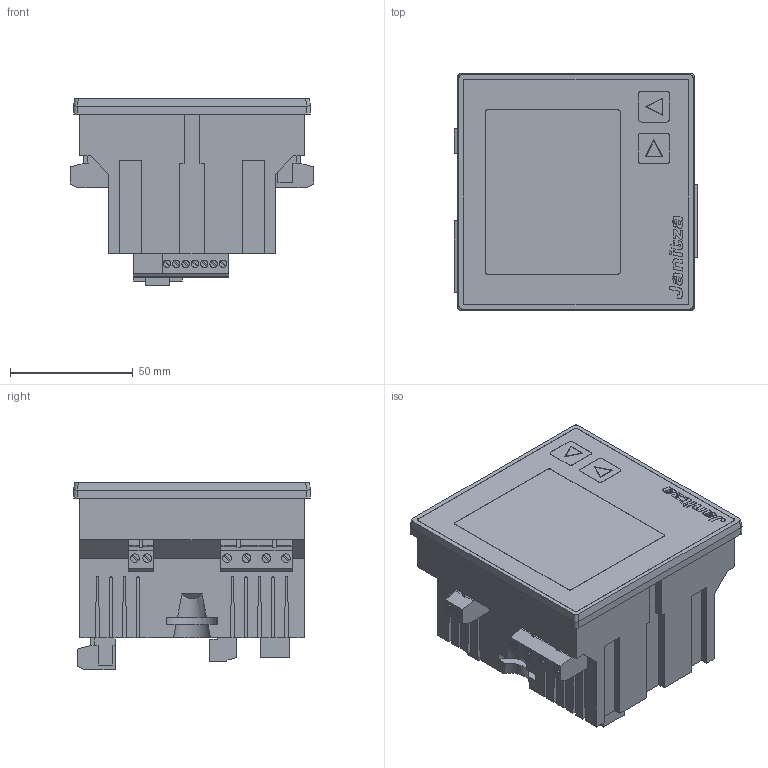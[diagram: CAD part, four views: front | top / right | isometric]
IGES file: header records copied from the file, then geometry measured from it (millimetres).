
Global section: file name: No Iges File Name specified; native system: AutoDesk Inventor R6.1; preprocessor: AutoDesk Inventor Iges Exporter R6.1; author: No Author specified; organization: No Organization specified; date: 20130506.202254; units: millimetre
Bounding box: 99 x 96.5 x 76.5 mm (x, y, z)
Surface area: 70582.7 mm2 (no closed solid volume)
Topology: 0 solids, 0 shells, 907 faces, 4814 edges, 4781 vertices
Faces by surface type: plane 690, bspline 126, revolution 91
